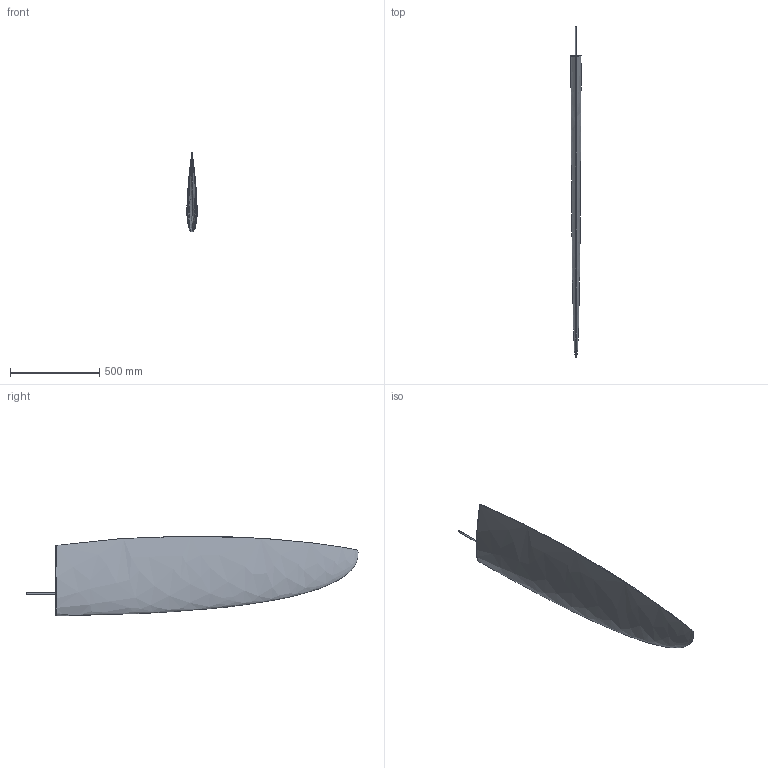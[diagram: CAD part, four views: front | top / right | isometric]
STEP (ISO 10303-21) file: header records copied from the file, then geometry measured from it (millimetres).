
FILE_DESCRIPTION (( 'STEP AP214' ), '1' );
FILE_NAME ('Rudderblade RUD33R.STEP', '2012-11-30T11:10:11', ( '' ), ( '' ), 'SwSTEP 2.0', 'SolidWorks 2012', '' );
FILE_SCHEMA (( 'AUTOMOTIVE_DESIGN' ));
Length unit declared in the file: millimetre
Products named in the file (1): Rudderblade RUD33R
Bounding box: 57.86 x 1854.99 x 444.35 mm (x, y, z)
Volume: 20284238.2 mm3; surface area: 1266397.7 mm2
Topology: 1 solids, 1 shells, 10 faces, 21 edges, 14 vertices
Faces by surface type: bspline 5, plane 3, cylinder 2
Entity records: 1719 total; most frequent: CARTESIAN_POINT 1507, ORIENTED_EDGE 42, DIRECTION 23, EDGE_CURVE 21, VERTEX_POINT 14, B_SPLINE_CURVE_WITH_KNOTS 14, EDGE_LOOP 11, AXIS2_PLACEMENT_3D 10
